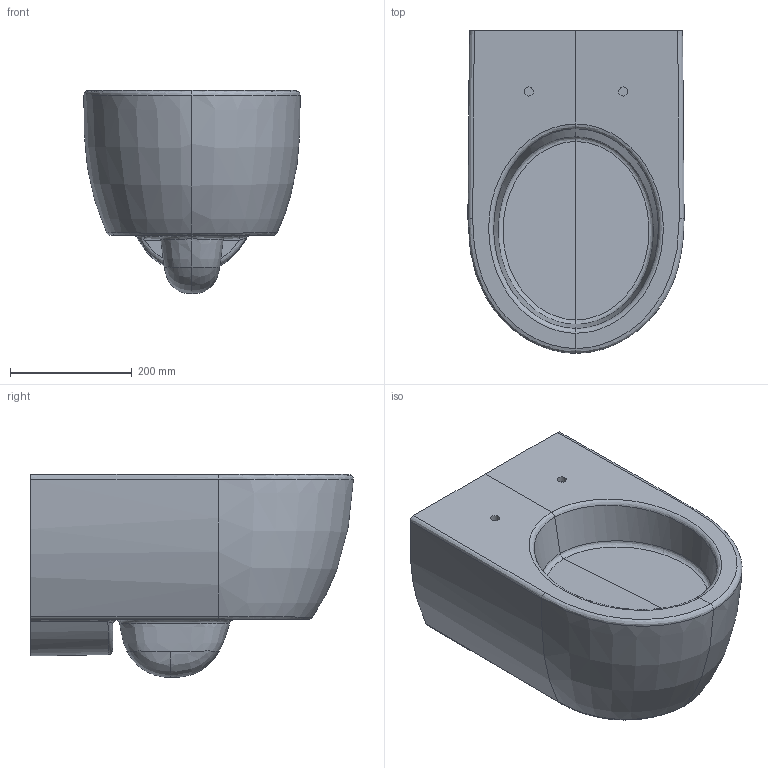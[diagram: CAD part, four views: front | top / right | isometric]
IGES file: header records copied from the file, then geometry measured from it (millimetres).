
Global section: file name: 204060000; native system: Autodesk Inventor 2018; preprocessor: unknown; author: JANAN; date: 20200529.125019; units: millimetre
Bounding box: 355.03 x 529.98 x 333.35 mm (x, y, z)
Volume: 34614312 mm3; surface area: 760769.8 mm2
Topology: 1 solids, 1 shells, 56 faces, 124 edges, 76 vertices
Faces by surface type: bspline 56
